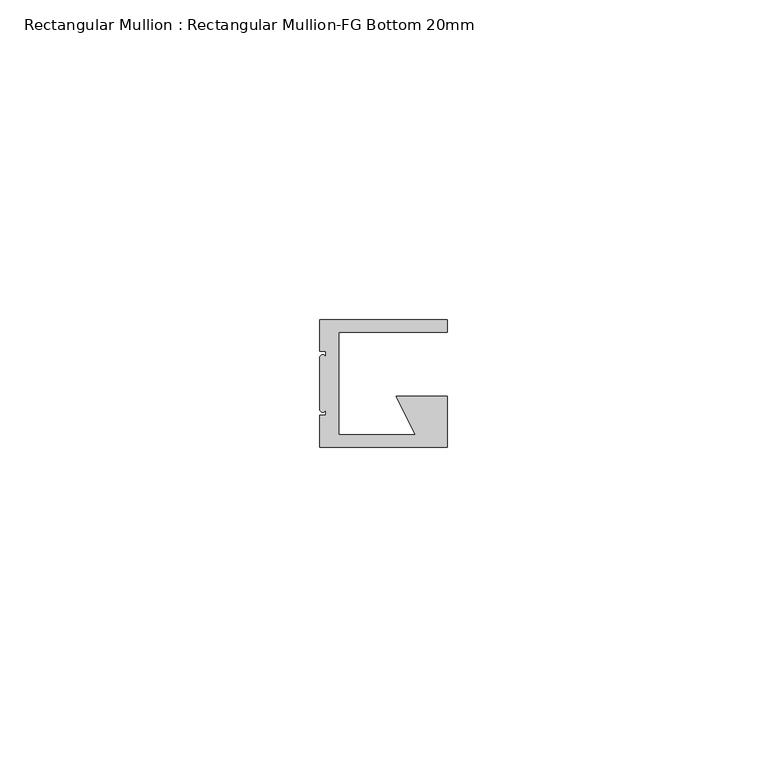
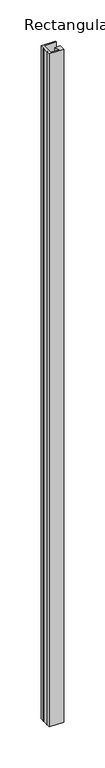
"""IFC4 building model written with IfcOpenShell, lengths in millimetres: member geometry, Rectangular Mullion : Rectangular Mullion-FG Bottom 20mm."""

from ifc_helpers import new_model, si_unit, frame, origin, place, context, project, spatial, circle_curve, source, transform, mapped, element, save
from ifc_brep_helpers import plane_surface, cylinder_surface, advanced_brep


def rectangular_mullion_rectangular_mullion_fg_bottom_20mm_e7f64252(model_context):
    return source(origin(), model_context, "Body", "AdvancedBrep", [
        advanced_brep(
        [(-20.0, -5.0, 0.0), (-19.0, -5.0, 0.0), (-19.0, -6.0, 0.0), (-20.0, -6.0, 0.0), (-20.0, -14.0, 0.0), (-19.0, -14.0, 0.0), (-19.0, -15.0, 0.0), (-20.0, -15.0, 0.0), (-20.0, -20.0, 0.0), (0.0, -20.0, 0.0), (0.0, -18.0, 0.0), (0.0, -12.0, 0.0), (-8.0, -12.0, 0.0), (-5.0, -18.0, 0.0), (-17.0, -18.0, 0.0), (-17.0, -2.0, 0.0), (0.0, -2.0, 0.0), (0.0, 0.0, 0.0), (-20.0, 0.0, 0.0), (-20.0, -5.0, -1000.0), (-20.0, 0.0, -1000.0), (0.0, 0.0, -1000.0), (0.0, -2.0, -1000.0), (-17.0, -2.0, -1000.0), (-17.0, -18.0, -1000.0), (-5.0, -18.0, -1000.0), (-8.0, -12.0, -1000.0), (0.0, -12.0, -1000.0), (0.0, -18.0, -1000.0), (0.0, -20.0, -1000.0), (-20.0, -20.0, -1000.0), (-20.0, -15.0, -1000.0), (-19.0, -15.0, -1000.0), (-19.0, -14.0, -1000.0), (-20.0, -14.0, -1000.0), (-20.0, -6.0, -1000.0), (-19.0, -6.0, -1000.0), (-19.0, -5.0, -1000.0)],
        [
            (0, 1),
            (1, 2),
            (2, 3, circle_curve(frame((-19.5, -6.0, 0.0), z_axis=(0.0, 0.0, 1.0), x_axis=(-1.0, 0.0, 0.0)), 0.5)),
            (3, 4),
            (4, 5, circle_curve(frame((-19.5, -14.0, 0.0), z_axis=(0.0, 0.0, 1.0), x_axis=(-1.0, 0.0, 0.0)), 0.5)),
            (5, 6),
            (6, 7),
            (7, 8),
            (8, 9),
            (9, 10),
            (10, 11),
            (11, 12),
            (12, 13),
            (13, 14),
            (14, 15),
            (15, 16),
            (16, 17),
            (17, 18),
            (18, 0),
            (19, 20),
            (20, 21),
            (21, 22),
            (22, 23),
            (23, 24),
            (24, 25),
            (25, 26),
            (26, 27),
            (27, 28),
            (28, 29),
            (29, 30),
            (30, 31),
            (31, 32),
            (32, 33),
            (33, 34, circle_curve(frame((-19.5, -14.0, -1000.0), z_axis=(0.0, 0.0, -1.0), x_axis=(-1.0, 0.0, 0.0)), 0.5)),
            (34, 35),
            (35, 36, circle_curve(frame((-19.5, -6.0, -1000.0), z_axis=(0.0, 0.0, -1.0), x_axis=(-1.0, 0.0, 0.0)), 0.5)),
            (36, 37),
            (37, 19),
            (0, 19),
            (37, 1),
            (36, 2),
            (35, 3),
            (34, 4),
            (33, 5),
            (32, 6),
            (31, 7),
            (30, 8),
            (29, 9),
            (28, 10),
            (27, 11),
            (26, 12),
            (25, 13),
            (24, 14),
            (23, 15),
            (22, 16),
            (21, 17),
            (20, 18),
        ],
        [
            plane_surface(frame((0.0, -28.2842712, 0.0), z_axis=(0.0, 0.0, 1.0), x_axis=(-1.0, 0.0, 0.0))),
            plane_surface(frame((0.0, -28.2842712, -1000.0), z_axis=(0.0, 0.0, -1.0), x_axis=(-1.0, 0.0, 0.0))),
            plane_surface(frame((-20.0, -5.0, 0.0), z_axis=(0.0, -1.0, 0.0), x_axis=(0.0, 0.0, -1.0))),
            plane_surface(frame((-19.0, -5.0, 0.0), z_axis=(-1.0, 0.0, 0.0), x_axis=(0.0, 0.0, -1.0))),
            cylinder_surface(frame((-19.5, -6.0, 0.0), z_axis=(0.0, 0.0, 1.0), x_axis=(-1.0, 0.0, 0.0)), 0.5),
            plane_surface(frame((-20.0, -6.0, 0.0), z_axis=(-1.0, 0.0, 0.0), x_axis=(0.0, 0.0, -1.0))),
            cylinder_surface(frame((-19.5, -14.0, 0.0), z_axis=(0.0, 0.0, 1.0), x_axis=(-1.0, 0.0, 0.0)), 0.5),
            plane_surface(frame((-19.0, -14.0, 0.0), z_axis=(-1.0, 0.0, 0.0), x_axis=(0.0, 0.0, -1.0))),
            plane_surface(frame((-19.0, -15.0, 0.0), z_axis=(0.0, 1.0, 0.0), x_axis=(0.0, 0.0, -1.0))),
            plane_surface(frame((-20.0, -15.0, 0.0), z_axis=(-1.0, 0.0, 0.0), x_axis=(0.0, 0.0, -1.0))),
            plane_surface(frame((-20.0, -20.0, 0.0), z_axis=(0.0, -1.0, 0.0), x_axis=(0.0, 0.0, -1.0))),
            plane_surface(frame((0.0, -20.0, 0.0), z_axis=(1.0, 0.0, 0.0), x_axis=(0.0, 0.0, -1.0))),
            plane_surface(frame((0.0, -18.0, 0.0), z_axis=(1.0, 0.0, 0.0), x_axis=(0.0, 0.0, -1.0))),
            plane_surface(frame((0.0, -12.0, 0.0), z_axis=(0.0, 1.0, 0.0), x_axis=(0.0, 0.0, -1.0))),
            plane_surface(frame((-8.0, -12.0, 0.0), z_axis=(-0.8944271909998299, -0.4472135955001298, 0.0), x_axis=(0.0, 0.0, -1.0))),
            plane_surface(frame((-5.0, -18.0, 0.0), z_axis=(0.0, 1.0, 0.0), x_axis=(0.0, 0.0, -1.0))),
            plane_surface(frame((-17.0, -18.0, 0.0), z_axis=(1.0, 0.0, 0.0), x_axis=(0.0, 0.0, -1.0))),
            plane_surface(frame((-17.0, -2.0, 0.0), z_axis=(0.0, -1.0, 0.0), x_axis=(0.0, 0.0, -1.0))),
            plane_surface(frame((0.0, -2.0, 0.0), z_axis=(1.0, 0.0, 0.0), x_axis=(0.0, 0.0, -1.0))),
            plane_surface(frame((0.0, 0.0, 0.0), z_axis=(0.0, 1.0, 0.0), x_axis=(0.0, 0.0, -1.0))),
            plane_surface(frame((-20.0, 0.0, 0.0), z_axis=(-1.0, 0.0, 0.0), x_axis=(0.0, 0.0, -1.0))),
        ],
        [
            (0, [[1, 2, 3, 4, 5, 6, 7, 8, 9, 10, 11, 12, 13, 14, 15, 16, 17, 18, 19]]),
            (1, [[20, 21, 22, 23, 24, 25, 26, 27, 28, 29, 30, 31, 32, 33, 34, 35, 36, 37, 38]]),
            (2, [[-1, 39, -38, 40]]),
            (3, [[-2, -40, -37, 41]]),
            (4, [[-3, -41, -36, 42]]),
            (5, [[-4, -42, -35, 43]]),
            (6, [[-5, -43, -34, 44]]),
            (7, [[-6, -44, -33, 45]]),
            (8, [[-7, -45, -32, 46]]),
            (9, [[-8, -46, -31, 47]]),
            (10, [[-9, -47, -30, 48]]),
            (11, [[-10, -48, -29, 49]]),
            (12, [[-11, -49, -28, 50]]),
            (13, [[-12, -50, -27, 51]]),
            (14, [[-13, -51, -26, 52]]),
            (15, [[-14, -52, -25, 53]]),
            (16, [[-15, -53, -24, 54]]),
            (17, [[-16, -54, -23, 55]]),
            (18, [[-17, -55, -22, 56]]),
            (19, [[-18, -56, -21, 57]]),
            (20, [[-19, -57, -20, -39]]),
        ],
    ),
    ])


if __name__ == "__main__":
    model = new_model("IFC4")
    model_context = context("Model", 3, world=origin())
    ifc_project = project(units=[si_unit("LENGTHUNIT", "METRE", prefix="MILLI")], contexts=[model_context])
    site = spatial("IfcSite", under=ifc_project)
    building = spatial("IfcBuilding", under=site)
    placement = place(None, origin())
    rectangular_mullion_rectangular_mullion_fg_bottom_20mm_shape = rectangular_mullion_rectangular_mullion_fg_bottom_20mm_e7f64252(model_context)
    element("IfcMember", 1, ObjectType="Rectangular Mullion : Rectangular Mullion-FG Bottom 20mm", at=placement, inside=building, context=model_context, shape_type="MappedRepresentation", body=[
        mapped(rectangular_mullion_rectangular_mullion_fg_bottom_20mm_shape, transform((0.0, 0.0, 0.0), x_axis=(1.0, 0.0, 0.0), y_axis=(0.0, 1.0, 0.0), z_axis=(0.0, 0.0, 1.0))),
    ])
    save(model, "model.ifc")
